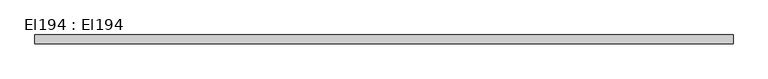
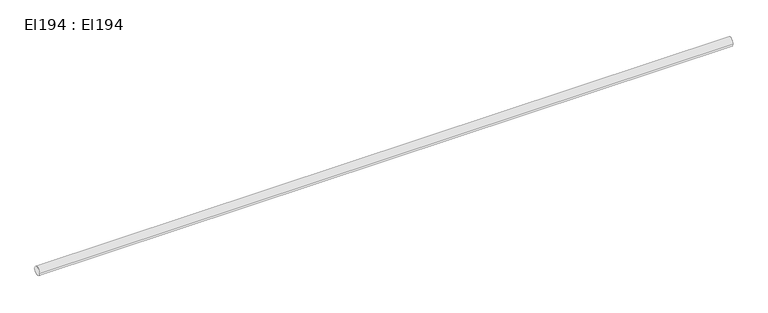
"""IFC4 building model written with IfcOpenShell, lengths in millimetres: cable carrier segment geometry, El194 : El194."""

from ifc_helpers import new_model, si_unit, point, frame, frame_2d, origin, place, context, project, spatial, circle_curve, trimmed, segment, composite_curve, outline, extrude, source, transform, mapped, element, save


def el194_el194_d07b9a51(model_context):
    return source(origin(), model_context, "Body", "SweptSolid", [
        extrude(outline(composite_curve([segment(trimmed(circle_curve(frame_2d((33534.6, 2950.0)), 12.0), [point((33522.6, 2950.0))], [point((33546.6, 2950.0))], False, "CARTESIAN"), True, "CONTINUOUS"), segment(trimmed(circle_curve(frame_2d((33534.6, 2950.0)), 12.0), [point((33546.6, 2950.0))], [point((33522.6, 2950.0))], False, "CARTESIAN"), True, "CONTINUOUS")], self_intersect=False)), frame((11681.1, 0.0, 0.0), z_axis=(1.0, 0.0, 0.0), x_axis=(0.0, 1.0, 0.0)), (0.0, 0.0, 1.0), 1900.0),
    ])


if __name__ == "__main__":
    model = new_model("IFC4")
    model_context = context("Model", 3, world=origin())
    ifc_project = project(units=[si_unit("LENGTHUNIT", "METRE", prefix="MILLI")], contexts=[model_context])
    site = spatial("IfcSite", under=ifc_project)
    building = spatial("IfcBuilding", under=site)
    placement = place(None, origin())
    el194_el194_shape = el194_el194_d07b9a51(model_context)
    element("IfcCableCarrierSegment", 1, ObjectType="El194 : El194", at=placement, inside=building, context=model_context, shape_type="MappedRepresentation", body=[
        mapped(el194_el194_shape, transform((0.0, 0.0, 0.0), x_axis=(1.0, 0.0, 0.0), y_axis=(0.0, 1.0, 0.0), z_axis=(0.0, 0.0, 1.0))),
    ])
    save(model, "model.ifc")
